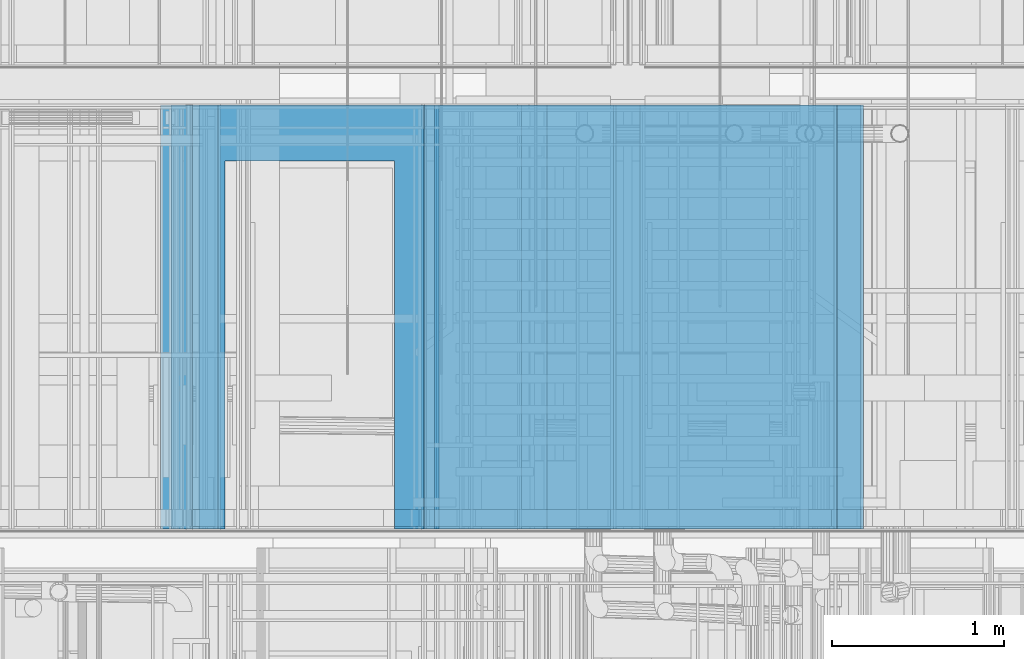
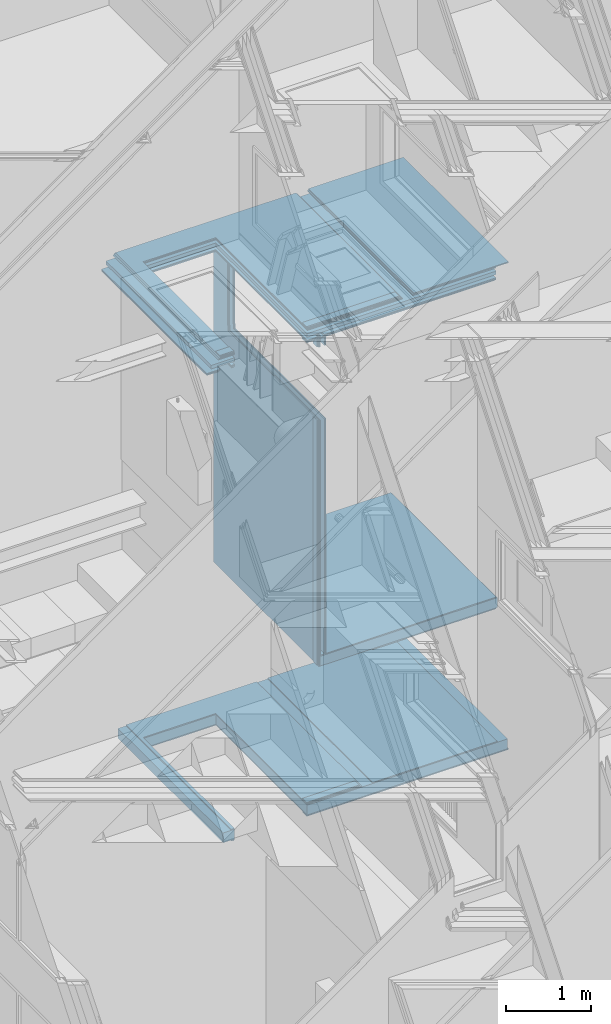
# One storey, part 146 of 583: 28 building element parts, 4 openings, 4 elements without a shape of their own.
"""IFC2X3 building model written with IfcOpenShell, lengths in metres."""

import ifcopenshell
import ifcopenshell.guid

model = None  # the IFC model being written
_history = None  # IfcOwnerHistory: only IFC2X3 demands one
_inside = {}  # id of a spatial element -> (the spatial element, [elements in it])
_under = {}  # id of a project, library or spatial element -> (it, [spatial elements below it])
_declared = {}  # id of a project -> (the project, [libraries it declares])
_typed = {}  # id of a type object -> (the type object, [elements of that type])
_made_of = {}  # id of a material, layer set ... -> (it, [elements and type objects made of it])


def new_model(schema):
    """Start an empty IFC model of exactly this schema.

    Asked for "IFC4X3", IfcOpenShell would pick the latest addendum, in which some entities
    have other attributes; the version numbers below select the first issue.
    IFC2X3 requires an IfcOwnerHistory on every rooted entity: one is made here for all.
    """
    global model, _history
    if schema == "IFC4X3":
        model = ifcopenshell.file(schema_version=(4, 3, 0, 0))
    else:
        model = ifcopenshell.file(schema=schema)
    _inside.clear()
    _under.clear()
    _declared.clear()
    _typed.clear()
    _made_of.clear()
    _history = None
    if model.schema == "IFC2X3":
        org = make("IfcOrganization", Name="unknown")
        user = make(
            "IfcPersonAndOrganization",
            ThePerson=make("IfcPerson", FamilyName="unknown"),
            TheOrganization=org,
        )
        app = make(
            "IfcApplication",
            ApplicationDeveloper=org,
            Version="unknown",
            ApplicationFullName="unknown",
            ApplicationIdentifier="unknown",
        )
        _history = make(
            "IfcOwnerHistory",
            OwningUser=user,
            OwningApplication=app,
            ChangeAction="ADDED",
            CreationDate=0,
        )
    return model


def make(cls, **values):
    """One entity of the class cls with the attributes given. An attribute that is None is left unset."""
    return model.create_entity(
        cls, **{name: value for name, value in values.items() if value is not None}
    )


def entity(cls, *values):
    """Any entity or typed value of the class cls, its attributes in the order of the schema. None: left unset."""
    e = model.create_entity(cls)
    for i, value in enumerate(values):
        if value is not None:
            e[i] = value
    return e


def rooted(cls, **values):
    """An entity with a GlobalId (a new one), such as an element, a storey or a relation."""
    return make(cls, GlobalId=ifcopenshell.guid.new(), OwnerHistory=_history, **values)


def si_unit(unit_type, name, prefix=None):
    """IfcSIUnit, for example si_unit("LENGTHUNIT", "METRE", prefix="MILLI")."""
    return make("IfcSIUnit", UnitType=unit_type, Prefix=prefix, Name=name)


def converted_unit(unit_type, name, factor, base, dimensions=None, offset=None):
    """IfcConversionBasedUnit, such as the inch: factor (a typed value) times the base unit."""
    return make(
        "IfcConversionBasedUnit"
        if offset is None
        else "IfcConversionBasedUnitWithOffset",
        ConversionOffset=offset,
        Dimensions=None
        if dimensions is None
        else entity("IfcDimensionalExponents", *dimensions),
        UnitType=unit_type,
        Name=name,
        ConversionFactor=make(
            "IfcMeasureWithUnit", ValueComponent=factor, UnitComponent=base
        ),
    )


def derived_unit(unit_type, elements):
    """IfcDerivedUnit: a product of units, each with its exponent."""
    return make(
        "IfcDerivedUnit",
        Elements=[
            make("IfcDerivedUnitElement", Unit=unit, Exponent=power)
            for unit, power in elements
        ],
        UnitType=unit_type,
    )


def money_unit(currency):
    """IfcMonetaryUnit."""
    return make("IfcMonetaryUnit", Currency=currency)


def assignment(units):
    """IfcUnitAssignment: the units of a project."""
    return None if units is None else make("IfcUnitAssignment", Units=units)


def point(xyz):
    """IfcCartesianPoint."""
    return None if xyz is None else make("IfcCartesianPoint", Coordinates=xyz)


def direction(xyz):
    """IfcDirection."""
    return None if xyz is None else make("IfcDirection", DirectionRatios=xyz)


def frame(location, z_axis=None, x_axis=None):
    """IfcAxis2Placement3D, a coordinate frame: its origin and axes. An axis left out is left unset."""
    return make(
        "IfcAxis2Placement3D",
        Location=point(location),
        Axis=direction(z_axis),
        RefDirection=direction(x_axis),
    )


def frame_2d(location, x_axis=None):
    """IfcAxis2Placement2D, a coordinate frame in the plane: its origin and x axis."""
    return make(
        "IfcAxis2Placement2D", Location=point(location), RefDirection=direction(x_axis)
    )


def origin_with_axes():
    """The frame at (0, 0, 0) with the z axis (0, 0, 1) and the x axis (1, 0, 0) written out."""
    return frame((0.0, 0.0, 0.0), z_axis=(0.0, 0.0, 1.0), x_axis=(1.0, 0.0, 0.0))


def place(relative_to, where):
    """IfcLocalPlacement: puts the frame where relative to a parent placement (None: the world)."""
    return make(
        "IfcLocalPlacement", PlacementRelTo=relative_to, RelativePlacement=where
    )


def context(
    kind, dimensions, precision=None, world=None, true_north=None, identifier=None
):
    """IfcGeometricRepresentationContext, for example the 3D "Model" context."""
    return make(
        "IfcGeometricRepresentationContext",
        ContextIdentifier=identifier,
        ContextType=kind,
        CoordinateSpaceDimension=dimensions,
        Precision=precision,
        WorldCoordinateSystem=world,
        TrueNorth=true_north,
    )


def subcontext(parent, identifier, kind, view, scale=None):
    """IfcGeometricRepresentationSubContext, for example "Body" below "Model"."""
    return make(
        "IfcGeometricRepresentationSubContext",
        ContextIdentifier=identifier,
        ContextType=kind,
        ParentContext=parent,
        TargetScale=scale,
        TargetView=view,
    )


def project(units=None, contexts=None):
    """IfcProject with its units and contexts."""
    return rooted(
        "IfcProject",
        Name="project",
        RepresentationContexts=contexts,
        UnitsInContext=assignment(units),
    )


def spatial(cls, under=None, at=None, **own):
    """A site, building, storey or space (cls), placed at a placement, below another one or the project."""
    s = rooted(cls, ObjectPlacement=at, **own)
    if under is not None:
        _under.setdefault(under.id(), (under, []))[1].append(s)
    return s


def polyline(points):
    """IfcPolyline through the points."""
    return make("IfcPolyline", Points=[point(p) for p in points])


def profile(cls, at=None, kind="AREA", **sizes):
    """A parametric profile (cls). Its sizes go by their IFC names, for example OverallWidth=200.0."""
    return make(cls, ProfileType=kind, Position=at, **sizes)


def rectangle(**sizes):
    """IfcRectangleProfileDef."""
    return profile("IfcRectangleProfileDef", **sizes)


def outline(outer, holes=None, kind="AREA"):
    """IfcArbitraryClosedProfileDef: a profile drawn as a closed curve; with holes, ...WithVoids."""
    if holes is None:
        return make("IfcArbitraryClosedProfileDef", ProfileType=kind, OuterCurve=outer)
    return make(
        "IfcArbitraryProfileDefWithVoids",
        ProfileType=kind,
        OuterCurve=outer,
        InnerCurves=holes,
    )


def extrude(swept, where, along, depth):
    """IfcExtrudedAreaSolid: the profile swept, set in the frame where, extruded along a direction by depth."""
    return make(
        "IfcExtrudedAreaSolid",
        SweptArea=swept,
        Position=where,
        ExtrudedDirection=direction(along),
        Depth=depth,
    )


def shape(context_of_items, identifier, shape_type, items):
    """IfcShapeRepresentation: the items that make up one representation, for example the "Body"."""
    return make(
        "IfcShapeRepresentation",
        ContextOfItems=context_of_items,
        RepresentationIdentifier=identifier,
        RepresentationType=shape_type,
        Items=items,
    )


def material(Name=None, Category=None):
    """IfcMaterial."""
    return make("IfcMaterial", Name=Name, Category=Category)


def made_of(thing, what):
    """Note that an element or type object is made of a material, layer set ...; save() writes the relation."""
    if what is not None:
        _made_of.setdefault(what.id(), (what, []))[1].append(thing)
    return thing


def type_object(cls, material=None, **own):
    """A type object (cls), such as IfcWallType, which elements share."""
    return made_of(rooted(cls, **own), material)


def element(
    cls,
    number,
    at=None,
    inside=None,
    cuts=None,
    type_object=None,
    material=None,
    context=None,
    identifier="Body",
    shape_type=None,
    held_by="IfcProductDefinitionShape",
    body=None,
    shapes=None,
    **own,
):
    """One element of the class cls, such as IfcWall. Its Tag is "e" and its number.

    at: its placement. inside: the storey or other place that contains it. cuts: it is an
    opening in that element (IfcRelVoidsElement). A single representation is given by context,
    identifier, shape_type and body (its items); several are given by shapes. held_by: the class
    of the entity that holds the representations. save() writes the other relations.
    """
    e = rooted(cls, Tag="e%d" % number, ObjectPlacement=at, **own)
    if body is not None:
        shapes = [shape(context, identifier, shape_type, body)]
    if shapes is not None:
        e.Representation = make(held_by, Representations=shapes)
    if inside is not None:
        _inside.setdefault(inside.id(), (inside, []))[1].append(e)
    if cuts is not None:
        rooted(
            "IfcRelVoidsElement", RelatingBuildingElement=cuts, RelatedOpeningElement=e
        )
    if type_object is not None:
        _typed.setdefault(type_object.id(), (type_object, []))[1].append(e)
    return made_of(e, material)


def aggregate(whole, parts):
    """IfcRelAggregates: a whole, such as a stair, and the parts it consists of."""
    return rooted("IfcRelAggregates", RelatingObject=whole, RelatedObjects=parts)


def save(model, path):
    """Write the relations noted so far, then the file.

    IfcRelAggregates (storeys below a building ...), IfcRelContainedInSpatialStructure (elements
    in a storey), IfcRelDefinesByType, IfcRelAssociatesMaterial and IfcRelDeclares: one each for
    every whole, place, type object, material and project.
    """
    for whole, parts in _under.values():
        aggregate(whole, parts)
    for where, things in _inside.values():
        rooted(
            "IfcRelContainedInSpatialStructure",
            RelatedElements=things,
            RelatingStructure=where,
        )
    for kind, things in _typed.values():
        rooted("IfcRelDefinesByType", RelatedObjects=things, RelatingType=kind)
    for what, things in _made_of.values():
        rooted("IfcRelAssociatesMaterial", RelatedObjects=things, RelatingMaterial=what)
    for by, libraries in _declared.values():
        rooted("IfcRelDeclares", RelatingContext=by, RelatedDefinitions=libraries)
    model.write(path)


model = new_model("IFC2X3")

# Units and contexts
model_context = context("Model", 3, precision=1e-05, world=origin_with_axes(), true_north=direction((0.0, 1.0)))
body_context = subcontext(model_context, "Body", "Model", "MODEL_VIEW", scale=1.0)
ifc_project = project(units=[si_unit("LENGTHUNIT", "METRE"), si_unit("AREAUNIT", "SQUARE_METRE"), si_unit("VOLUMEUNIT", "CUBIC_METRE"), si_unit("ABSORBEDDOSEUNIT", "GRAY"), si_unit("AMOUNTOFSUBSTANCEUNIT", "MOLE"), si_unit("DOSEEQUIVALENTUNIT", "SIEVERT"), si_unit("ELECTRICCAPACITANCEUNIT", "FARAD"), si_unit("ELECTRICCHARGEUNIT", "COULOMB"), si_unit("ELECTRICCONDUCTANCEUNIT", "SIEMENS"), si_unit("ELECTRICCURRENTUNIT", "AMPERE"), si_unit("ELECTRICRESISTANCEUNIT", "OHM"), si_unit("ELECTRICVOLTAGEUNIT", "VOLT"), si_unit("ENERGYUNIT", "JOULE"), si_unit("FORCEUNIT", "NEWTON"), si_unit("FREQUENCYUNIT", "HERTZ"), si_unit("ILLUMINANCEUNIT", "LUX"), si_unit("INDUCTANCEUNIT", "HENRY"), si_unit("LUMINOUSFLUXUNIT", "LUMEN"), si_unit("LUMINOUSINTENSITYUNIT", "CANDELA"), si_unit("MAGNETICFLUXDENSITYUNIT", "TESLA"), si_unit("MAGNETICFLUXUNIT", "WEBER"), si_unit("MASSUNIT", "GRAM"), converted_unit("PLANEANGLEUNIT", "degree", entity("IfcReal", 0.0174532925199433), si_unit("PLANEANGLEUNIT", "RADIAN"), dimensions=[0, 0, 0, 0, 0, 0, 0]), si_unit("POWERUNIT", "WATT"), si_unit("PRESSUREUNIT", "PASCAL"), si_unit("RADIOACTIVITYUNIT", "BECQUEREL"), si_unit("SOLIDANGLEUNIT", "STERADIAN"), si_unit("THERMODYNAMICTEMPERATUREUNIT", "KELVIN"), si_unit("TIMEUNIT", "SECOND"), derived_unit("ACCELERATIONUNIT", [(si_unit("LENGTHUNIT", "METRE"), 1), (si_unit("TIMEUNIT", "SECOND"), -2)]), derived_unit("ANGULARVELOCITYUNIT", [(converted_unit("PLANEANGLEUNIT", "degree", entity("IfcReal", 0.0174532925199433), si_unit("PLANEANGLEUNIT", "RADIAN"), dimensions=[0, 0, 0, 0, 0, 0, 0]), 1), (si_unit("TIMEUNIT", "SECOND"), -1)]), derived_unit("CURVATUREUNIT", [(converted_unit("PLANEANGLEUNIT", "degree", entity("IfcReal", 0.0174532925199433), si_unit("PLANEANGLEUNIT", "RADIAN"), dimensions=[0, 0, 0, 0, 0, 0, 0]), 1), (si_unit("LENGTHUNIT", "METRE"), -1)]), derived_unit("DYNAMICVISCOSITYUNIT", [(si_unit("PRESSUREUNIT", "PASCAL"), 1), (si_unit("TIMEUNIT", "SECOND"), 1)]), derived_unit("HEATFLUXDENSITYUNIT", [(si_unit("POWERUNIT", "WATT"), 1), (si_unit("LENGTHUNIT", "METRE"), -2)]), derived_unit("HEATINGVALUEUNIT", [(si_unit("ENERGYUNIT", "JOULE"), 1), (si_unit("MASSUNIT", "GRAM"), -1)]), derived_unit("INTEGERCOUNTRATEUNIT", [(si_unit("TIMEUNIT", "SECOND"), -1)]), derived_unit("IONCONCENTRATIONUNIT", [(si_unit("MASSUNIT", "GRAM"), 1), (si_unit("VOLUMEUNIT", "CUBIC_METRE"), -1)]), derived_unit("ISOTHERMALMOISTURECAPACITYUNIT", [(si_unit("VOLUMEUNIT", "CUBIC_METRE"), 1), (si_unit("MASSUNIT", "GRAM"), -1)]), derived_unit("KINEMATICVISCOSITYUNIT", [(si_unit("AREAUNIT", "SQUARE_METRE"), 1), (si_unit("TIMEUNIT", "SECOND"), -1)]), derived_unit("LINEARFORCEUNIT", [(si_unit("FORCEUNIT", "NEWTON"), 1), (si_unit("LENGTHUNIT", "METRE"), -1)]), derived_unit("LINEARMOMENTUNIT", [(si_unit("FORCEUNIT", "NEWTON"), 1), (si_unit("LENGTHUNIT", "METRE"), -1)]), derived_unit("LINEARSTIFFNESSUNIT", [(si_unit("FORCEUNIT", "NEWTON"), 1), (si_unit("LENGTHUNIT", "METRE"), -1)]), derived_unit("LINEARVELOCITYUNIT", [(si_unit("LENGTHUNIT", "METRE"), 1), (si_unit("TIMEUNIT", "SECOND"), -1)]), derived_unit("LUMINOUSINTENSITYDISTRIBUTIONUNIT", [(si_unit("LUMINOUSINTENSITYUNIT", "CANDELA"), 1), (si_unit("LUMINOUSFLUXUNIT", "LUMEN"), -1)]), derived_unit("MASSDENSITYUNIT", [(si_unit("MASSUNIT", "GRAM"), 1), (si_unit("VOLUMEUNIT", "CUBIC_METRE"), -1)]), derived_unit("MASSFLOWRATEUNIT", [(si_unit("MASSUNIT", "GRAM"), 1), (si_unit("TIMEUNIT", "SECOND"), -1)]), derived_unit("MASSPERLENGTHUNIT", [(si_unit("MASSUNIT", "GRAM"), 1), (si_unit("LENGTHUNIT", "METRE"), -1)]), derived_unit("MODULUSOFELASTICITYUNIT", [(si_unit("FORCEUNIT", "NEWTON"), 1), (si_unit("AREAUNIT", "SQUARE_METRE"), -1)]), derived_unit("MODULUSOFLINEARSUBGRADEREACTIONUNIT", [(si_unit("FORCEUNIT", "NEWTON"), 1), (si_unit("LENGTHUNIT", "METRE"), -2)]), derived_unit("MODULUSOFROTATIONALSUBGRADEREACTIONUNIT", [(si_unit("FORCEUNIT", "NEWTON"), 1), (si_unit("LENGTHUNIT", "METRE"), 1)]), derived_unit("MODULUSOFSUBGRADEREACTIONUNIT", [(si_unit("FORCEUNIT", "NEWTON"), 1), (si_unit("VOLUMEUNIT", "CUBIC_METRE"), -1)]), derived_unit("MOISTUREDIFFUSIVITYUNIT", [(si_unit("VOLUMEUNIT", "CUBIC_METRE"), 1), (si_unit("TIMEUNIT", "SECOND"), -1)]), derived_unit("MOLECULARWEIGHTUNIT", [(si_unit("MASSUNIT", "GRAM"), 1), (si_unit("AMOUNTOFSUBSTANCEUNIT", "MOLE"), -1)]), derived_unit("PLANARFORCEUNIT", [(si_unit("FORCEUNIT", "NEWTON"), 1), (si_unit("LENGTHUNIT", "METRE"), -2)]), derived_unit("ROTATIONALFREQUENCYUNIT", [(si_unit("TIMEUNIT", "SECOND"), -1)]), derived_unit("ROTATIONALMASSUNIT", [(si_unit("MASSUNIT", "GRAM"), 1), (si_unit("LENGTHUNIT", "METRE"), 2)]), derived_unit("ROTATIONALSTIFFNESSUNIT", [(si_unit("FORCEUNIT", "NEWTON"), 1), (si_unit("LENGTHUNIT", "METRE"), 1), (converted_unit("PLANEANGLEUNIT", "degree", entity("IfcReal", 0.0174532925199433), si_unit("PLANEANGLEUNIT", "RADIAN"), dimensions=[0, 0, 0, 0, 0, 0, 0]), -1)]), derived_unit("SECTIONAREAINTEGRALUNIT", [(si_unit("LENGTHUNIT", "METRE"), 5)]), derived_unit("SECTIONMODULUSUNIT", [(si_unit("LENGTHUNIT", "METRE"), 3)]), derived_unit("SHEARMODULUSUNIT", [(si_unit("FORCEUNIT", "NEWTON"), 1), (si_unit("AREAUNIT", "SQUARE_METRE"), -1)]), derived_unit("SOUNDPOWERUNIT", [(si_unit("ENERGYUNIT", "JOULE"), 1), (si_unit("TIMEUNIT", "SECOND"), -1)]), derived_unit("SPECIFICHEATCAPACITYUNIT", [(si_unit("FORCEUNIT", "NEWTON"), 1), (si_unit("MASSUNIT", "GRAM"), -1), (si_unit("THERMODYNAMICTEMPERATUREUNIT", "KELVIN"), -1)]), derived_unit("TEMPERATUREGRADIENTUNIT", [(si_unit("THERMODYNAMICTEMPERATUREUNIT", "KELVIN"), 1), (si_unit("LENGTHUNIT", "METRE"), -1)]), derived_unit("THERMALADMITTANCEUNIT", [(si_unit("POWERUNIT", "WATT"), 1), (si_unit("AREAUNIT", "SQUARE_METRE"), -1), (si_unit("THERMODYNAMICTEMPERATUREUNIT", "KELVIN"), -1)]), derived_unit("THERMALCONDUCTANCEUNIT", [(si_unit("POWERUNIT", "WATT"), 1), (si_unit("LENGTHUNIT", "METRE"), -1), (si_unit("THERMODYNAMICTEMPERATUREUNIT", "KELVIN"), -1)]), derived_unit("THERMALEXPANSIONCOEFFICIENTUNIT", [(si_unit("THERMODYNAMICTEMPERATUREUNIT", "KELVIN"), -1)]), derived_unit("THERMALRESISTANCEUNIT", [(si_unit("AREAUNIT", "SQUARE_METRE"), 1), (si_unit("POWERUNIT", "WATT"), -1)]), derived_unit("THERMALTRANSMITTANCEUNIT", [(si_unit("POWERUNIT", "WATT"), 1), (si_unit("AREAUNIT", "SQUARE_METRE"), -1), (si_unit("THERMODYNAMICTEMPERATUREUNIT", "KELVIN"), -1)]), derived_unit("TORQUEUNIT", [(si_unit("FORCEUNIT", "NEWTON"), 1), (si_unit("LENGTHUNIT", "METRE"), 1)]), derived_unit("VAPORPERMEABILITYUNIT", [(si_unit("MASSUNIT", "GRAM"), 1), (si_unit("TIMEUNIT", "SECOND"), -1)]), derived_unit("VOLUMETRICFLOWRATEUNIT", [(si_unit("VOLUMEUNIT", "CUBIC_METRE"), 1), (si_unit("TIMEUNIT", "SECOND"), -1)]), derived_unit("WARPINGCONSTANTUNIT", [(si_unit("LENGTHUNIT", "METRE"), 6)]), derived_unit("WARPINGMOMENTUNIT", [(si_unit("FORCEUNIT", "NEWTON"), 1), (si_unit("LENGTHUNIT", "METRE"), 2)]), money_unit("GBP")], contexts=[model_context])

# Site, building, storey
site_placement = place(None, origin_with_axes())
site = spatial("IfcSite", under=ifc_project, at=site_placement, Name="Site", CompositionType="ELEMENT")
building_placement = place(site_placement, origin_with_axes())
building = spatial("IfcBuilding", under=site, at=building_placement, Name="Building01", CompositionType="ELEMENT")
storey_placement = place(building_placement, frame((0.0, 0.0, 20.78), z_axis=(0.0, 0.0, 1.0), x_axis=(1.0, 0.0, 0.0)))
storey = spatial("IfcBuildingStorey", under=building, at=storey_placement, Name="RL", CompositionType="ELEMENT", Elevation=20.78)

# Wall, opening, building element parts
wall_type_1 = type_object("IfcWallType", Name="SHE_A-Walls_Type03a_BlockworkWall_170mm", PredefinedType="NOTDEFINED")
wall_1_placement = place(storey_placement, frame((8.805, 14.98, -11.705), z_axis=(0.0, 1.0, 0.0), x_axis=(-1.0, 0.0, 0.0)))
wall_1 = element("IfcWall", 1, at=wall_1_placement, inside=storey, type_object=wall_type_1, Name="4B", ObjectType="SHE_A-Walls_Type03a_BlockworkWall_170mm")
opening_1_placement = place(wall_1_placement, frame((2.713, 0.155, 0.0), z_axis=(0.0, 0.0, 1.0), x_axis=(1.0, 0.0, 0.0)))
element("IfcOpeningElement", 2, at=opening_1_placement, cuts=wall_1, Name="Opening", ObjectType="Opening", context=body_context, shape_type="SweptSolid", body=[
    extrude(rectangle(XDim=2.142, YDim=0.984, at=frame_2d((-0.492, 1.071), x_axis=(0.0, -1.0))), frame((0.0, -5.033332, 0.0), z_axis=(0.0, 1.0, 0.0), x_axis=(-1.0, 0.0, 0.0)), (0.0, 0.0, 1.0), 10.066665),
])
ifc_material_1 = material(Name="A_BSUK_WallsInternal_Block")
placement_1 = place(wall_1_placement, origin_with_axes())
building_element_part_1 = element("IfcBuildingElementPart", 3, at=placement_1, material=ifc_material_1, Name="1", context=body_context, shape_type="SweptSolid", body=[
    extrude(rectangle(XDim=3.85, YDim=0.14, at=frame_2d((1.925, 0.07), x_axis=(-1.0, 0.0))), origin_with_axes(), (0.0, 0.0, 1.0), 2.468),
])
ifc_material_2 = material(Name="A_BSUK_Walls_Timber")
building_element_part_2 = element("IfcBuildingElementPart", 4, at=placement_1, material=ifc_material_2, Name="2", context=body_context, shape_type="SweptSolid", body=[
    extrude(outline(polyline([(3.61, 0.17), (1.998, 0.17), (1.998, 0.155), (3.625, 0.155), (3.61, 0.17)])), frame((0.0, 0.0, 0.015), z_axis=(0.0, 0.0, 1.0), x_axis=(1.0, 0.0, 0.0)), (0.0, 0.0, 1.0), 0.1),
])
ifc_material_3 = material(Name="A_BSUK_WallInternal_Finishes_Plaster")
building_element_part_3 = element("IfcBuildingElementPart", 5, at=placement_1, material=ifc_material_3, Name="3", context=body_context, shape_type="SweptSolid", body=[
    extrude(rectangle(XDim=1.685, YDim=0.015, at=frame_2d((0.9825, 0.1475), x_axis=(-1.0, 0.0))), origin_with_axes(), (0.0, 0.0, 1.0), 2.468),
])
ifc_material_4 = material(Name="A_BSUK_WallInternal_Finishes_Plasterboard")
building_element_part_4 = element("IfcBuildingElementPart", 6, at=placement_1, material=ifc_material_4, Name="4", context=body_context, shape_type="SweptSolid", body=[
    extrude(rectangle(XDim=3.755, YDim=0.015, at=frame_2d((1.8625, -0.0075), x_axis=(-1.0, 0.0))), origin_with_axes(), (0.0, 0.0, 1.0), 2.468),
])
building_element_part_5 = element("IfcBuildingElementPart", 7, at=placement_1, material=ifc_material_2, Name="5", context=body_context, shape_type="SweptSolid", body=[
    extrude(rectangle(XDim=3.725, YDim=0.015, at=frame_2d((1.8475, -0.0225), x_axis=(-1.0, 0.0))), frame((0.0, 0.0, 0.015), z_axis=(0.0, 0.0, 1.0), x_axis=(1.0, 0.0, 0.0)), (0.0, 0.0, 1.0), 0.1),
])
building_element_part_6 = element("IfcBuildingElementPart", 8, at=placement_1, material=ifc_material_3, Name="6", context=body_context, shape_type="SweptSolid", body=[
    extrude(rectangle(XDim=1.766, YDim=0.015, at=frame_2d((2.857, 0.1475), x_axis=(-1.0, 0.0))), origin_with_axes(), (0.0, 0.0, 1.0), 2.468),
])
aggregate(wall_1, [building_element_part_1, building_element_part_2, building_element_part_3, building_element_part_4, building_element_part_5, building_element_part_6])

# Wall, building element parts
wall_2_placement = place(storey_placement, frame((6.263, 14.98, -9.635), z_axis=(0.0, 1.0, 0.0), x_axis=(1.0, 0.0, 0.0)))
wall_2 = element("IfcWall", 9, at=wall_2_placement, inside=storey, type_object=wall_type_1, Name="4B", ObjectType="SHE_A-Walls_Type03a_BlockworkWall_170mm")
placement_2 = place(wall_2_placement, origin_with_axes())
building_element_part_7 = element("IfcBuildingElementPart", 10, at=placement_2, material=ifc_material_1, Name="1", context=body_context, shape_type="SweptSolid", body=[
    extrude(rectangle(XDim=2.402, YDim=0.14, at=frame_2d((1.201, -0.07), x_axis=(-1.0, 0.0))), origin_with_axes(), (0.0, 0.0, 1.0), 2.468),
])
building_element_part_8 = element("IfcBuildingElementPart", 11, at=placement_2, material=ifc_material_4, Name="4", context=body_context, shape_type="SweptSolid", body=[
    extrude(rectangle(XDim=2.387, YDim=0.015, at=frame_2d((1.1935, -0.1475), x_axis=(-1.0, 0.0))), origin_with_axes(), (0.0, 0.0, 1.0), 2.468),
])
building_element_part_9 = element("IfcBuildingElementPart", 12, at=placement_2, material=ifc_material_3, Name="6", context=body_context, shape_type="SweptSolid", body=[
    extrude(outline(polyline([(2.387, 0.015), (0.717, 0.015), (0.702, 0.0), (2.387, 0.0), (2.387, 0.015)])), origin_with_axes(), (0.0, 0.0, 1.0), 2.468),
])
aggregate(wall_2, [building_element_part_7, building_element_part_8, building_element_part_9])

# Wall, openings, building element parts
wall_type_2 = type_object("IfcWallType", Name="SHE_A-Walls_Type03c_Firewall_F120_100mm", PredefinedType="NOTDEFINED")
wall_3_placement = place(storey_placement, frame((6.25, 14.995, -9.62), z_axis=(0.0, 1.0, 0.0), x_axis=(0.0, 0.0, 1.0)))
wall_3 = element("IfcWall", 13, at=wall_3_placement, inside=storey, type_object=wall_type_2, Name="3C", ObjectType="SHE_A-Walls_Type03c_Firewall_F120_100mm")
opening_2_placement = place(wall_3_placement, frame((3.501, 0.2, -0.03), z_axis=(0.0, 0.0, 1.0), x_axis=(1.0, 0.0, 0.0)))
element("IfcOpeningElement", 14, at=opening_2_placement, cuts=wall_3, Name="Opening", ObjectType="Opening", context=body_context, shape_type="SweptSolid", body=[
    extrude(rectangle(XDim=0.984, YDim=2.142, at=frame_2d((-0.492, 1.071), x_axis=(1.0, 0.0))), frame((0.0, -5.384541, 0.0), z_axis=(0.0, 1.0, 0.0), x_axis=(-1.0, 0.0, 0.0)), (0.0, 0.0, 1.0), 10.769082),
])
opening_3_placement = place(wall_3_placement, frame((3.56744, 0.1, -0.015), z_axis=(0.0, 0.0, 1.0), x_axis=(1.0, 0.0, 0.0)))
element("IfcOpeningElement", 15, at=opening_3_placement, cuts=wall_3, Name="Opening", ObjectType="Opening", context=body_context, shape_type="SweptSolid", body=[
    extrude(rectangle(XDim=2.142, YDim=0.984, at=frame_2d((-0.492, 1.071), x_axis=(0.0, -1.0))), frame((0.0, -5.691455, 0.0), z_axis=(0.0, 1.0, 0.0), x_axis=(-1.0, 0.0, 0.0)), (0.0, 0.0, 1.0), 11.38291),
])
placement_3 = place(wall_3_placement, origin_with_axes())
building_element_part_10 = element("IfcBuildingElementPart", 16, at=placement_3, material=ifc_material_2, Name="1", context=body_context, shape_type="SweptSolid", body=[
    extrude(rectangle(XDim=4.75344, YDim=0.015, at=frame_2d((2.37672, -0.0075), x_axis=(-1.0, 0.0))), origin_with_axes(), (0.0, 0.0, 1.0), 0.1),
])
building_element_part_11 = element("IfcBuildingElementPart", 17, at=placement_3, material=ifc_material_4, Name="2", context=body_context, shape_type="SweptSolid", body=[
    extrude(rectangle(XDim=4.69344, YDim=0.013, at=frame_2d((2.33172, 0.0065), x_axis=(-1.0, 0.0))), frame((0.0, 0.0, -0.015), z_axis=(0.0, 0.0, 1.0), x_axis=(1.0, 0.0, 0.0)), (0.0, 0.0, 1.0), 2.468),
])
building_element_part_12 = element("IfcBuildingElementPart", 18, at=placement_3, material=ifc_material_4, Name="3", context=body_context, shape_type="SweptSolid", body=[
    extrude(rectangle(XDim=4.55344, YDim=0.013, at=frame_2d((2.41672, 0.0935), x_axis=(-1.0, 0.0))), frame((0.0, 0.0, -0.015), z_axis=(0.0, 0.0, 1.0), x_axis=(1.0, 0.0, 0.0)), (0.0, 0.0, 1.0), 2.468),
])
building_element_part_13 = element("IfcBuildingElementPart", 19, at=placement_3, material=ifc_material_4, Name="4", context=body_context, shape_type="SweptSolid", body=[
    extrude(rectangle(XDim=4.56844, YDim=0.012, at=frame_2d((2.42422, 0.019), x_axis=(-1.0, 0.0))), frame((0.0, 0.0, -0.015), z_axis=(0.0, 0.0, 1.0), x_axis=(1.0, 0.0, 0.0)), (0.0, 0.0, 1.0), 2.468),
])
building_element_part_14 = element("IfcBuildingElementPart", 20, at=placement_3, material=ifc_material_4, Name="5", context=body_context, shape_type="SweptSolid", body=[
    extrude(outline(polyline([(4.69344, 0.087), (0.14, 0.087), (0.14, 0.075), (4.70844, 0.075), (4.69344, 0.087)])), frame((0.0, 0.0, -0.015), z_axis=(0.0, 0.0, 1.0), x_axis=(1.0, 0.0, 0.0)), (0.0, 0.0, 1.0), 2.468),
])
aggregate(wall_3, [building_element_part_10, building_element_part_11, building_element_part_12, building_element_part_13, building_element_part_14])

# Wall, opening, building element parts
wall_type_3 = type_object("IfcWallType", Name="SHE_A-Walls_Type03b_Firewall_200mm_twin", PredefinedType="NOTDEFINED")
wall_4_placement = place(storey_placement, frame((8.65, 14.98, -4.86656), z_axis=(0.0, 1.0, 0.0), x_axis=(-1.0, 0.0, 0.0)))
wall_4 = element("IfcWall", 21, at=wall_4_placement, inside=storey, type_object=wall_type_3, Name="3B", ObjectType="SHE_A-Walls_Type03b_Firewall_200mm_twin")
opening_4_placement = place(wall_4_placement, frame((2.558, -0.075, 0.0), z_axis=(0.0, 0.0, 1.0), x_axis=(1.0, 0.0, 0.0)))
element("IfcOpeningElement", 22, at=opening_4_placement, cuts=wall_4, Name="Opening", ObjectType="Opening", context=body_context, shape_type="SweptSolid", body=[
    extrude(rectangle(XDim=2.142, YDim=0.984, at=frame_2d((0.492, 1.071), x_axis=(0.0, -1.0))), frame((0.0, 3.15614, 0.0), z_axis=(0.0, -1.0, 0.0), x_axis=(1.0, 0.0, 0.0)), (0.0, 0.0, 1.0), 6.31228),
])
ifc_material_5 = material(Name="A_BSUK_Insulation")
placement_4 = place(wall_4_placement, origin_with_axes())
building_element_part_15 = element("IfcBuildingElementPart", 23, at=placement_4, material=ifc_material_5, Name="1", context=body_context, shape_type="SweptSolid", body=[
    extrude(rectangle(XDim=3.858, YDim=0.05, at=frame_2d((1.929, 0.025), x_axis=(-1.0, 0.0))), origin_with_axes(), (0.0, 0.0, 1.0), 2.468),
])
building_element_part_16 = element("IfcBuildingElementPart", 24, at=placement_4, material=ifc_material_2, Name="2", context=body_context, shape_type="SweptSolid", body=[
    extrude(rectangle(XDim=2.432915, YDim=0.015, at=frame_2d((2.516542, 0.1325), x_axis=(-1.0, 0.0))), frame((0.0, 0.0, 0.015), z_axis=(0.0, 0.0, 1.0), x_axis=(1.0, 0.0, 0.0)), (0.0, 0.0, 1.0), 0.1),
])
building_element_part_17 = element("IfcBuildingElementPart", 25, at=placement_4, material=ifc_material_4, Name="3", context=body_context, shape_type="SweptSolid", body=[
    extrude(rectangle(XDim=1.285085, YDim=0.015, at=frame_2d((0.472542, 0.1175), x_axis=(-1.0, 0.0))), origin_with_axes(), (0.0, 0.0, 1.0), 2.468),
])
building_element_part_18 = element("IfcBuildingElementPart", 26, at=placement_4, material=ifc_material_4, Name="4", context=body_context, shape_type="SweptSolid", body=[
    extrude(rectangle(XDim=1.130085, YDim=0.015, at=frame_2d((0.565042, 0.1025), x_axis=(-1.0, 0.0))), origin_with_axes(), (0.0, 0.0, 1.0), 2.468),
])
building_element_part_19 = element("IfcBuildingElementPart", 27, at=placement_4, material=ifc_material_4, Name="5", context=body_context, shape_type="SweptSolid", body=[
    extrude(outline(polyline([(2.325, -0.045), (0.0, -0.045), (0.0, -0.06), (2.313, -0.06), (2.325, -0.045)])), origin_with_axes(), (0.0, 0.0, 1.0), 2.468),
])
building_element_part_20 = element("IfcBuildingElementPart", 28, at=placement_4, material=ifc_material_4, Name="6", context=body_context, shape_type="SweptSolid", body=[
    extrude(rectangle(XDim=2.3, YDim=0.015, at=frame_2d((1.15, -0.0675), x_axis=(-1.0, 0.0))), origin_with_axes(), (0.0, 0.0, 1.0), 2.468),
])
building_element_part_21 = element("IfcBuildingElementPart", 29, at=placement_4, material=ifc_material_2, Name="7", context=body_context, shape_type="SweptSolid", body=[
    extrude(rectangle(XDim=0.015, YDim=3.527, at=frame_2d((1.7785, -0.0825), x_axis=(0.0, -1.0))), frame((0.0, 0.0, 0.015), z_axis=(0.0, 0.0, 1.0), x_axis=(1.0, 0.0, 0.0)), (0.0, 0.0, 1.0), 0.1),
])
building_element_part_22 = element("IfcBuildingElementPart", 30, at=placement_4, material=ifc_material_4, Name="8", context=body_context, shape_type="SweptSolid", body=[
    extrude(rectangle(XDim=1.198, YDim=0.015, at=frame_2d((2.986, -0.0525), x_axis=(-1.0, 0.0))), origin_with_axes(), (0.0, 0.0, 1.0), 2.468),
])
building_element_part_23 = element("IfcBuildingElementPart", 31, at=placement_4, material=ifc_material_4, Name="9", context=body_context, shape_type="SweptSolid", body=[
    extrude(rectangle(XDim=1.183, YDim=0.015, at=frame_2d((2.9785, -0.0675), x_axis=(-1.0, 0.0))), origin_with_axes(), (0.0, 0.0, 1.0), 2.468),
])
building_element_part_24 = element("IfcBuildingElementPart", 32, at=placement_4, material=ifc_material_2, Name="10", context=body_context, shape_type="SweptSolid", body=[
    extrude(rectangle(XDim=1.17, YDim=0.015, at=frame_2d((2.985, -0.0825), x_axis=(-1.0, 0.0))), frame((0.0, 0.0, 0.015), z_axis=(0.0, 0.0, 1.0), x_axis=(1.0, 0.0, 0.0)), (0.0, 0.0, 1.0), 0.1),
])
building_element_part_25 = element("IfcBuildingElementPart", 33, at=placement_4, material=ifc_material_4, Name="11", context=body_context, shape_type="SweptSolid", body=[
    extrude(rectangle(XDim=0.163, YDim=0.015, at=frame_2d((3.8365, -0.0675), x_axis=(-1.0, 0.0))), origin_with_axes(), (0.0, 0.0, 1.0), 2.468),
])
building_element_part_26 = element("IfcBuildingElementPart", 34, at=placement_4, material=ifc_material_4, Name="12", context=body_context, shape_type="SweptSolid", body=[
    extrude(rectangle(XDim=0.178, YDim=0.015, at=frame_2d((3.829, -0.0525), x_axis=(-1.0, 0.0))), origin_with_axes(), (0.0, 0.0, 1.0), 2.468),
])
building_element_part_27 = element("IfcBuildingElementPart", 35, at=placement_4, material=ifc_material_4, Name="13", context=body_context, shape_type="SweptSolid", body=[
    extrude(outline(polyline([(3.733, 0.125), (1.285085, 0.125), (1.285085, 0.11), (3.748, 0.11), (3.733, 0.125)])), origin_with_axes(), (0.0, 0.0, 1.0), 2.468),
])
building_element_part_28 = element("IfcBuildingElementPart", 36, at=placement_4, material=ifc_material_4, Name="14", context=body_context, shape_type="SweptSolid", body=[
    extrude(outline(polyline([(3.748, 0.11), (1.270085, 0.11), (1.270085, 0.095), (3.763, 0.095), (3.748, 0.11)])), origin_with_axes(), (0.0, 0.0, 1.0), 2.468),
])
aggregate(wall_4, [building_element_part_15, building_element_part_16, building_element_part_17, building_element_part_18, building_element_part_19, building_element_part_20, building_element_part_21, building_element_part_22, building_element_part_23, building_element_part_24, building_element_part_25, building_element_part_26, building_element_part_27, building_element_part_28])

save(model, "model.ifc")
